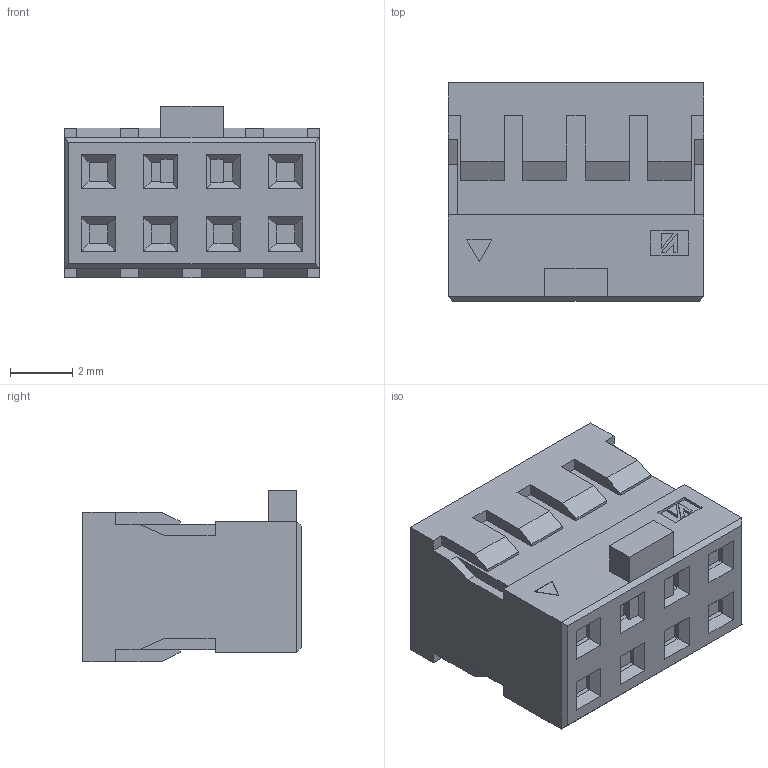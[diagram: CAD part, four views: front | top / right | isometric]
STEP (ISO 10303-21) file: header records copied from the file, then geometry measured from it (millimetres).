
FILE_DESCRIPTION((''),'2;1');
FILE_NAME('S-51383-024XXXX-XXX','2020-08-01T',('d37621'),(''),'CREO PARAMETRIC BY PTC INC, 2014500','CREO PARAMETRIC BY PTC INC, 2014500','');
FILE_SCHEMA(('CONFIG_CONTROL_DESIGN'));
Length unit declared in the file: millimetre
Products named in the file (1): S-51383-024XXXX-XXX
Bounding box: 8.2 x 7 x 5.5 mm (x, y, z)
Volume: 235.2 mm3; surface area: 309.4 mm2
Topology: 1 solids, 1 shells, 267 faces, 685 edges, 440 vertices
Faces by surface type: plane 267
Entity records: 7897 total; most frequent: CARTESIAN_POINT 1392, ORIENTED_EDGE 1370, DIRECTION 1219, VECTOR 685, LINE 685, EDGE_CURVE 685, VERTEX_POINT 440, EDGE_LOOP 287
